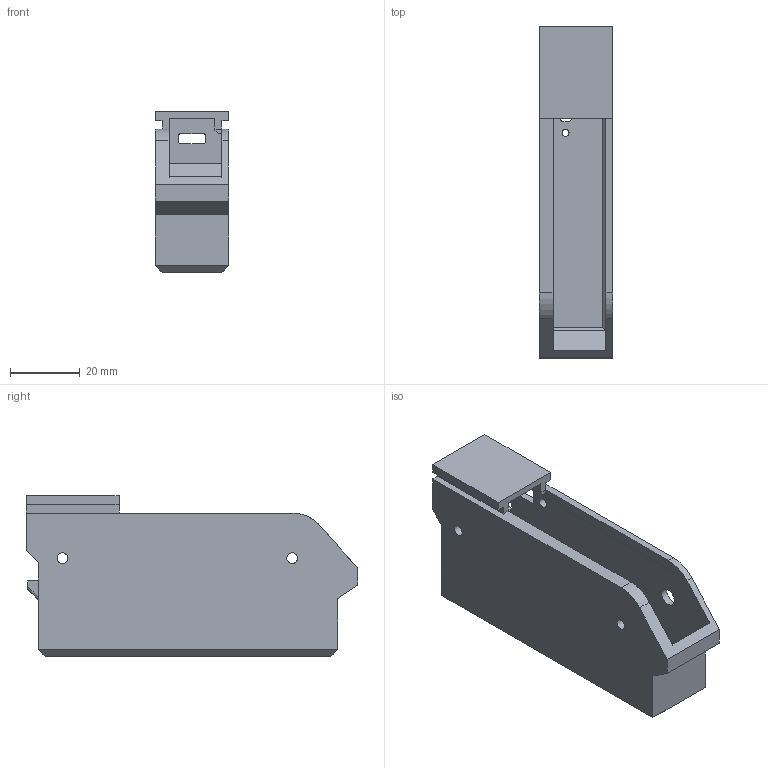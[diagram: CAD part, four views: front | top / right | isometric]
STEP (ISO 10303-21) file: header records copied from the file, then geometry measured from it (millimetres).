
FILE_DESCRIPTION(('HOOPS Exchange Step'),'2;1');
FILE_NAME('/private/var/mobile/Containers/Data/Application/6CA7BBC5-1316-439E-A042-ED4FE808E911/tmp/export/temp_export','2026-07-31T13:22:25-05:00',('mobile'),('Shapr3D Limited'),'HOOPS Exchange 2026.3','Shapr3D','Authorized');
FILE_SCHEMA( ('AP242_MANAGED_MODEL_BASED_3D_ENGINEERING_MIM_LF {1 0 10303 442 1 1 4}') );
Length unit declared in the file: millimetre
Products named in the file (3): Circuit Mount; Electronics Housing; root
Assembly tree (2 placements, depth 3):
  root
    Electronics Housing
      Circuit Mount
Bounding box: 21.19 x 95.3 x 46.18 mm (x, y, z)
Volume: 26572.3 mm3; surface area: 21544.1 mm2
Topology: 1 solids, 1 shells, 105 faces, 291 edges, 190 vertices
Faces by surface type: plane 78, cylinder 22, cone 5
Full cylindrical faces by diameter (mm): 2 x1, 2.8 x2, 3.1 x2, 5 x2
Entity records: 3463 total; most frequent: CARTESIAN_POINT 610, ORIENTED_EDGE 582, DIRECTION 567, EDGE_CURVE 291, VECTOR 229, LINE 229, VERTEX_POINT 190, AXIS2_PLACEMENT_3D 169
